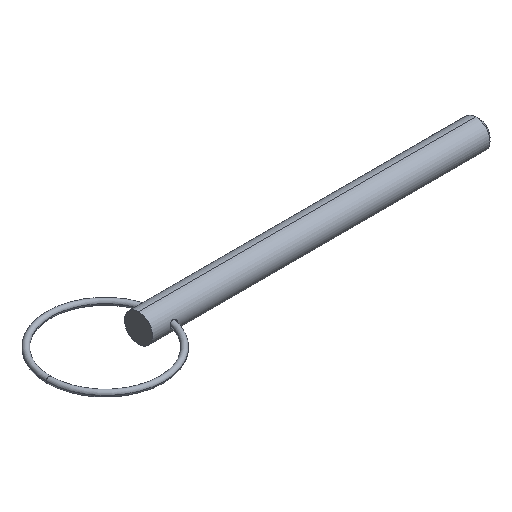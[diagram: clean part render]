
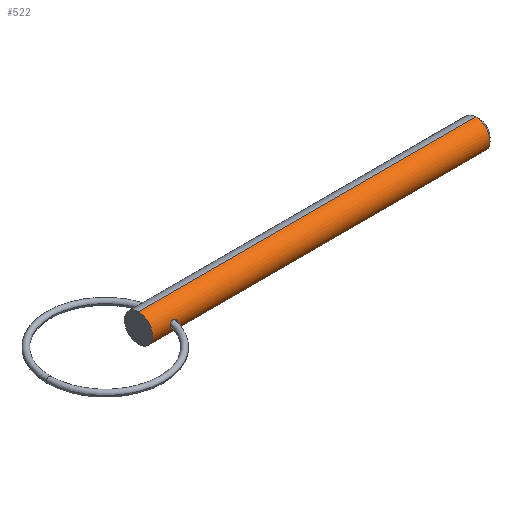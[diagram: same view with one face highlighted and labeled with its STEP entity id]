
A CAD part, isometric view. The second image highlights one B-rep face of the part: STEP entity #522.
In plain terms, the highlighted cylindrical face has radius 3.175 mm (diameter 6.35 mm), a partial arc.
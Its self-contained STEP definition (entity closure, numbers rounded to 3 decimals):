
#5 = ORIENTED_EDGE ( 'NONE', *, *, #288, .T. ) ;
#23 = ORIENTED_EDGE ( 'NONE', *, *, #419, .F. ) ;
#43 = VECTOR ( 'NONE', #272, 1000. ) ;
#45 = CARTESIAN_POINT ( 'NONE',  ( 4.127, -3.138, -0.49 ) ) ;
#55 = EDGE_CURVE ( 'NONE', #276, #513, #805, .T. ) ;
#85 = CARTESIAN_POINT ( 'NONE',  ( 0., 0., -3.175 ) ) ;
#87 = CARTESIAN_POINT ( 'NONE',  ( 4.127, -3.138, 0.49 ) ) ;
#111 = CARTESIAN_POINT ( 'NONE',  ( 3.95, -3.175, -0.106 ) ) ;
#115 = B_SPLINE_CURVE_WITH_KNOTS ( 'NONE', 3,
 ( #736, #355, #285, #719, #87, #480, #607, #407, #663, #171, #484, #739, #402, #661, #731, #792 ),
 .UNSPECIFIED., .F., .F.,
 ( 4, 2, 2, 2, 2, 2, 2, 4 ),
 ( 0., 0.001, 0.001, 0.002, 0.002, 0.002, 0.003, 0.003 ),
 .UNSPECIFIED. ) ;
#116 = DIRECTION ( 'NONE',  ( 1., 0., 0. ) ) ;
#118 = CARTESIAN_POINT ( 'NONE',  ( 4.064, -3.151, -0.404 ) ) ;
#124 = VERTEX_POINT ( 'NONE', #525 ) ;
#126 = EDGE_LOOP ( 'NONE', ( #197, #814, #747, #23 ) ) ;
#130 = VERTEX_POINT ( 'NONE', #784 ) ;
#163 = CARTESIAN_POINT ( 'NONE',  ( 4.992, -3.078, -0.778 ) ) ;
#167 = CARTESIAN_POINT ( 'NONE',  ( 3.974, -3.169, -0.212 ) ) ;
#171 = CARTESIAN_POINT ( 'NONE',  ( 5.189, -3.097, 0.702 ) ) ;
#197 = ORIENTED_EDGE ( 'NONE', *, *, #746, .F. ) ;
#218 = FACE_BOUND ( 'NONE', #313, .T. ) ;
#234 = CARTESIAN_POINT ( 'NONE',  ( 5.188, -3.097, -0.702 ) ) ;
#241 = CARTESIAN_POINT ( 'NONE',  ( 4.568, -3.075, -0.789 ) ) ;
#272 = DIRECTION ( 'NONE',  ( 1., 0., 0. ) ) ;
#273 = CARTESIAN_POINT ( 'NONE',  ( 76.216, 0., 3.175 ) ) ;
#276 = VERTEX_POINT ( 'NONE', #808 ) ;
#285 = CARTESIAN_POINT ( 'NONE',  ( 3.974, -3.169, 0.212 ) ) ;
#288 = EDGE_CURVE ( 'NONE', #130, #466, #115, .T. ) ;
#292 = CARTESIAN_POINT ( 'NONE',  ( 5.59, -3.175, -0.212 ) ) ;
#299 = DIRECTION ( 'NONE',  ( 0., 0., -1. ) ) ;
#313 = EDGE_LOOP ( 'NONE', ( #5, #626 ) ) ;
#355 = CARTESIAN_POINT ( 'NONE',  ( 3.95, -3.175, 0.106 ) ) ;
#369 = DIRECTION ( 'NONE',  ( 1., 0., 0. ) ) ;
#388 = CYLINDRICAL_SURFACE ( 'NONE', #709, 3.175 ) ;
#402 = CARTESIAN_POINT ( 'NONE',  ( 5.489, -3.15, 0.407 ) ) ;
#407 = CARTESIAN_POINT ( 'NONE',  ( 4.886, -3.074, 0.796 ) ) ;
#411 = CARTESIAN_POINT ( 'NONE',  ( 5.59, -3.175, 0. ) ) ;
#419 = EDGE_CURVE ( 'NONE', #571, #124, #741, .T. ) ;
#432 = EDGE_CURVE ( 'NONE', #466, #130, #448, .T. ) ;
#440 = EDGE_CURVE ( 'NONE', #513, #124, #606, .T. ) ;
#448 = B_SPLINE_CURVE_WITH_KNOTS ( 'NONE', 3,
 ( #411, #292, #726, #802, #234, #163, #733, #241, #550, #45, #118, #167, #111, #613 ),
 .UNSPECIFIED., .F., .F.,
 ( 4, 2, 2, 2, 2, 2, 4 ),
 ( 0.003, 0.003, 0.004, 0.004, 0.005, 0.005, 0.005 ),
 .UNSPECIFIED. ) ;
#455 = DIRECTION ( 'NONE',  ( 0., 0., -1. ) ) ;
#466 = VERTEX_POINT ( 'NONE', #672 ) ;
#480 = CARTESIAN_POINT ( 'NONE',  ( 4.36, -3.099, 0.705 ) ) ;
#484 = CARTESIAN_POINT ( 'NONE',  ( 5.279, -3.11, 0.644 ) ) ;
#508 = DIRECTION ( 'NONE',  ( 1., 0., 0. ) ) ;
#513 = VERTEX_POINT ( 'NONE', #85 ) ;
#514 = DIRECTION ( 'NONE',  ( 0., 0., -1. ) ) ;
#522 = ADVANCED_FACE ( 'NONE', ( #532, #218 ), #388, .T. ) ;
#525 = CARTESIAN_POINT ( 'NONE',  ( 76.216, 0., -3.175 ) ) ;
#526 = LINE ( 'NONE', #659, #43 ) ;
#532 = FACE_OUTER_BOUND ( 'NONE', #126, .T. ) ;
#547 = AXIS2_PLACEMENT_3D ( 'NONE', #585, #508, #455 ) ;
#550 = CARTESIAN_POINT ( 'NONE',  ( 4.359, -3.099, -0.704 ) ) ;
#557 = CARTESIAN_POINT ( 'NONE',  ( 0., 0., -3.175 ) ) ;
#571 = VERTEX_POINT ( 'NONE', #273 ) ;
#582 = CARTESIAN_POINT ( 'NONE',  ( 0., 0., 0. ) ) ;
#585 = CARTESIAN_POINT ( 'NONE',  ( 0., 0., 0. ) ) ;
#596 = AXIS2_PLACEMENT_3D ( 'NONE', #689, #116, #299 ) ;
#606 = LINE ( 'NONE', #557, #664 ) ;
#607 = CARTESIAN_POINT ( 'NONE',  ( 4.567, -3.075, 0.789 ) ) ;
#613 = CARTESIAN_POINT ( 'NONE',  ( 3.95, -3.175, 0. ) ) ;
#626 = ORIENTED_EDGE ( 'NONE', *, *, #432, .T. ) ;
#659 = CARTESIAN_POINT ( 'NONE',  ( 0., 0., 3.175 ) ) ;
#661 = CARTESIAN_POINT ( 'NONE',  ( 5.569, -3.169, 0.212 ) ) ;
#663 = CARTESIAN_POINT ( 'NONE',  ( 4.992, -3.078, 0.778 ) ) ;
#664 = VECTOR ( 'NONE', #807, 1000. ) ;
#672 = CARTESIAN_POINT ( 'NONE',  ( 5.59, -3.175, 0. ) ) ;
#689 = CARTESIAN_POINT ( 'NONE',  ( 76.216, 0., 0. ) ) ;
#709 = AXIS2_PLACEMENT_3D ( 'NONE', #582, #369, #514 ) ;
#719 = CARTESIAN_POINT ( 'NONE',  ( 4.063, -3.151, 0.403 ) ) ;
#726 = CARTESIAN_POINT ( 'NONE',  ( 5.504, -3.15, -0.423 ) ) ;
#731 = CARTESIAN_POINT ( 'NONE',  ( 5.59, -3.175, 0.106 ) ) ;
#733 = CARTESIAN_POINT ( 'NONE',  ( 4.885, -3.074, -0.796 ) ) ;
#736 = CARTESIAN_POINT ( 'NONE',  ( 3.95, -3.175, 0. ) ) ;
#739 = CARTESIAN_POINT ( 'NONE',  ( 5.429, -3.137, 0.497 ) ) ;
#741 = CIRCLE ( 'NONE', #596, 3.175 ) ;
#746 = EDGE_CURVE ( 'NONE', #276, #571, #526, .T. ) ;
#747 = ORIENTED_EDGE ( 'NONE', *, *, #440, .T. ) ;
#784 = CARTESIAN_POINT ( 'NONE',  ( 3.95, -3.175, 0. ) ) ;
#792 = CARTESIAN_POINT ( 'NONE',  ( 5.59, -3.175, 0. ) ) ;
#802 = CARTESIAN_POINT ( 'NONE',  ( 5.279, -3.11, -0.644 ) ) ;
#805 = CIRCLE ( 'NONE', #547, 3.175 ) ;
#807 = DIRECTION ( 'NONE',  ( 1., 0., 0. ) ) ;
#808 = CARTESIAN_POINT ( 'NONE',  ( 0., 0., 3.175 ) ) ;
#814 = ORIENTED_EDGE ( 'NONE', *, *, #55, .T. ) ;
